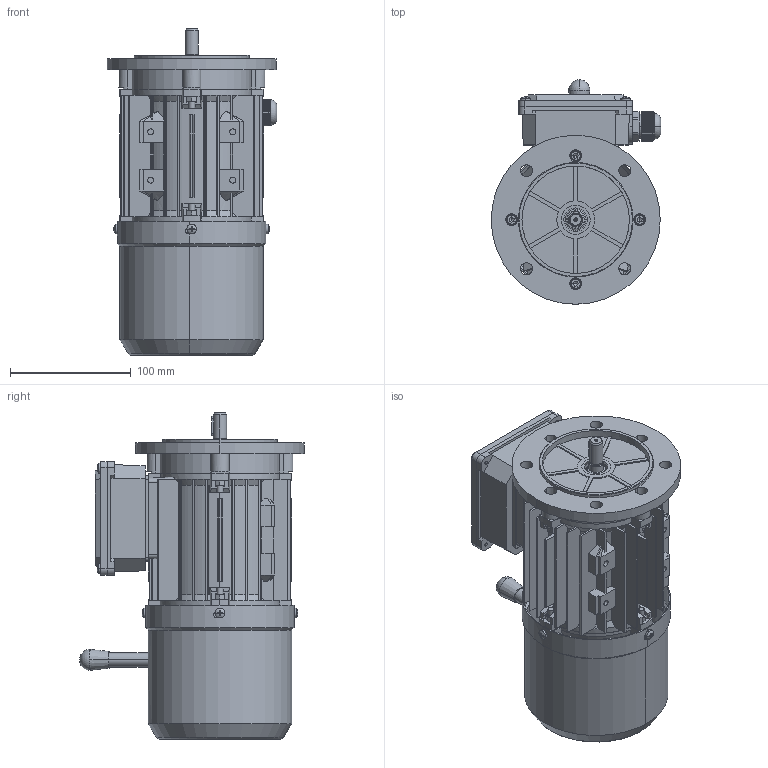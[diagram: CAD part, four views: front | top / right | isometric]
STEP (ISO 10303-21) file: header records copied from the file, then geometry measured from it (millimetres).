
FILE_DESCRIPTION (( 'STEP AP214' ), '1' );
FILE_NAME ('BCL0018.06C405.11.STEP', '2020-04-22T14:24:13', ( '' ), ( '' ), 'SwSTEP 2.0', 'SolidWorks 2019', '' );
FILE_SCHEMA (( 'AUTOMOTIVE_DESIGN' ));
Length unit declared in the file: millimetre
Products named in the file (1): BCL0018.06C405.11
Bounding box: 140.5 x 186.31 x 270.27 mm (x, y, z)
Volume: 587599.9 mm3; surface area: 426946.2 mm2
Topology: 34 solids, 34 shells, 2317 faces, 6180 edges, 3972 vertices
Faces by surface type: plane 1461, cylinder 518, cone 213, torus 51, bspline 40, sphere 34
Entity records: 103851 total; most frequent: CARTESIAN_POINT 20782, ORIENTED_EDGE 12288, DIRECTION 11335, EDGE_CURVE 6144, VERTEX_POINT 3970, AXIS2_PLACEMENT_3D 3820, VECTOR 3695, LINE 3695
